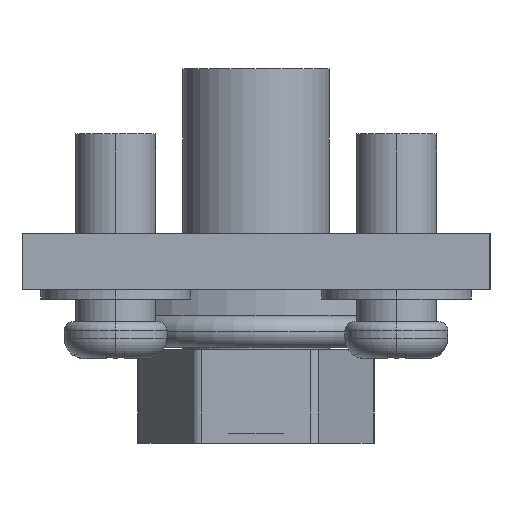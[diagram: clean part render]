
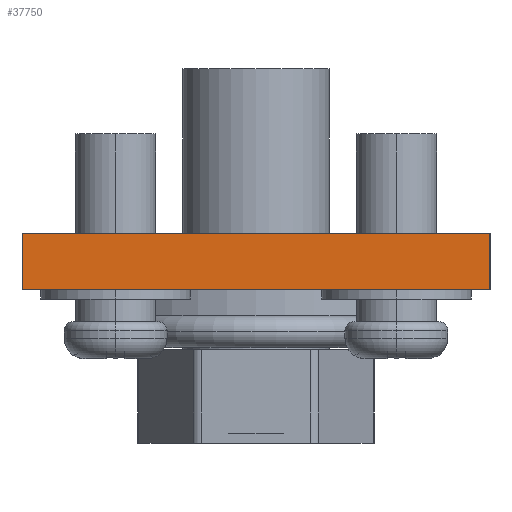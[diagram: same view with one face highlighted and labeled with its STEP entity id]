
A CAD part, left-side view. The second image highlights one B-rep face of the part: STEP entity #37750.
In plain terms, the highlighted planar face has unit normal (-1, 0, 0).
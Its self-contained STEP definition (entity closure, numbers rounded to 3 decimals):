
#33300=CARTESIAN_POINT('',(53.512,66.46,0.));
#33310=DIRECTION('',(0.,-1.,0.));
#33320=VECTOR('',#33310,1.);
#33330=LINE('',#33300,#33320);
#33340=CARTESIAN_POINT('',(53.512,66.46,0.));
#33350=VERTEX_POINT('',#33340);
#33360=CARTESIAN_POINT('',(53.512,41.46,0.));
#33370=VERTEX_POINT('',#33360);
#33380=EDGE_CURVE('',#33350,#33370,#33330,.T.);
#36970=CARTESIAN_POINT('',(53.512,66.46,3.));
#36980=VERTEX_POINT('',#36970);
#37010=CARTESIAN_POINT('',(53.512,66.46,3.));
#37020=DIRECTION('',(0.,0.,-1.));
#37030=VECTOR('',#37020,1.);
#37040=LINE('',#37010,#37030);
#37050=EDGE_CURVE('',#36980,#33350,#37040,.T.);
#37400=CARTESIAN_POINT('',(53.512,41.46,3.));
#37410=DIRECTION('',(0.,0.,-1.));
#37420=VECTOR('',#37410,1.);
#37430=LINE('',#37400,#37420);
#37440=CARTESIAN_POINT('',(53.512,41.46,3.));
#37450=VERTEX_POINT('',#37440);
#37460=EDGE_CURVE('',#37450,#33370,#37430,.T.);
#37590=CARTESIAN_POINT('',(53.512,41.46,0.));
#37600=DIRECTION('',(-1.,0.,0.));
#37610=DIRECTION('',(0.,1.,0.));
#37620=AXIS2_PLACEMENT_3D('',#37590,#37600,#37610);
#37630=PLANE('',#37620);
#37640=ORIENTED_EDGE('',*,*,#37050,.T.);
#37650=CARTESIAN_POINT('',(53.512,66.46,3.));
#37660=DIRECTION('',(0.,-1.,0.));
#37670=VECTOR('',#37660,1.);
#37680=LINE('',#37650,#37670);
#37690=EDGE_CURVE('',#36980,#37450,#37680,.T.);
#37700=ORIENTED_EDGE('',*,*,#37690,.F.);
#37710=ORIENTED_EDGE('',*,*,#37460,.F.);
#37720=ORIENTED_EDGE('',*,*,#33380,.T.);
#37730=EDGE_LOOP('',(#37720,#37710,#37700,#37640));
#37740=FACE_OUTER_BOUND('',#37730,.T.);
#37750=ADVANCED_FACE('',(#37740),#37630,.T.);
